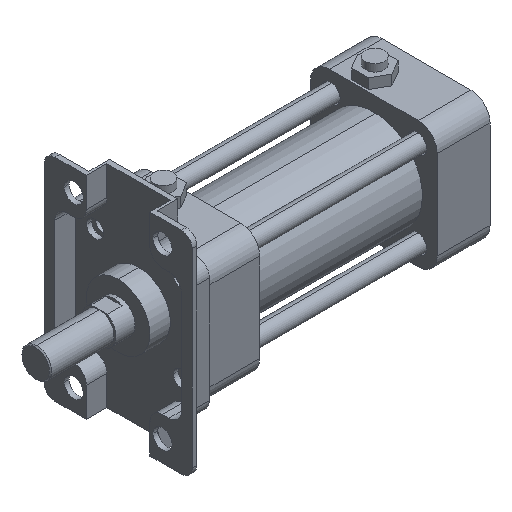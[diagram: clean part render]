
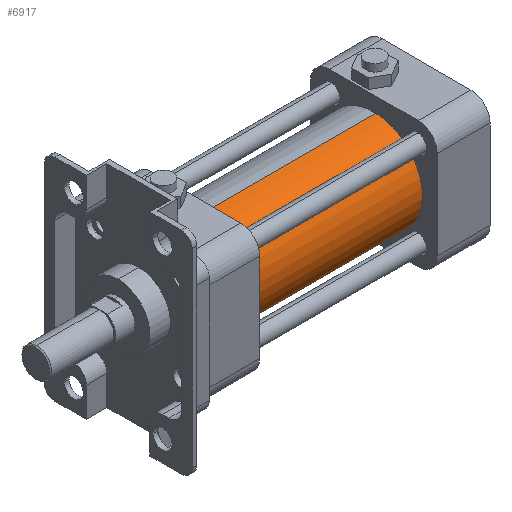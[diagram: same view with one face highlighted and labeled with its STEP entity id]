
A CAD part, isometric view. The second image highlights one B-rep face of the part: STEP entity #6917.
In plain terms, the highlighted cylindrical face has radius 23 mm (diameter 46 mm), a partial arc.
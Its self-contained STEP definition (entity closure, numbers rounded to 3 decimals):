
#235 = EDGE_CURVE ( 'NONE', #5671, #9579, #7488, .T. ) ;
#873 = CARTESIAN_POINT ( 'NONE',  ( -29.1, 0., 0. ) ) ;
#920 = ORIENTED_EDGE ( 'NONE', *, *, #1832, .T. ) ;
#1194 = VERTEX_POINT ( 'NONE', #5676 ) ;
#1336 = AXIS2_PLACEMENT_3D ( 'NONE', #1838, #5120, #8529 ) ;
#1426 = AXIS2_PLACEMENT_3D ( 'NONE', #7830, #6672, #3194 ) ;
#1832 = EDGE_CURVE ( 'NONE', #1194, #9579, #9403, .T. ) ;
#1838 = CARTESIAN_POINT ( 'NONE',  ( 42., 0., 0. ) ) ;
#2541 = ORIENTED_EDGE ( 'NONE', *, *, #235, .F. ) ;
#2621 = EDGE_LOOP ( 'NONE', ( #10273, #7188, #920, #2541 ) ) ;
#2696 = DIRECTION ( 'NONE',  ( -1., 0., 0. ) ) ;
#2908 = DIRECTION ( 'NONE',  ( -1., 0., 0. ) ) ;
#3194 = DIRECTION ( 'NONE',  ( 0., 0., 1. ) ) ;
#3237 = CARTESIAN_POINT ( 'NONE',  ( -42., 0., 23. ) ) ;
#4249 = EDGE_CURVE ( 'NONE', #8578, #1194, #5173, .T. ) ;
#4495 = VECTOR ( 'NONE', #6089, 1000. ) ;
#5120 = DIRECTION ( 'NONE',  ( -1., 0., 0. ) ) ;
#5173 = CIRCLE ( 'NONE', #1336, 23. ) ;
#5247 = CARTESIAN_POINT ( 'NONE',  ( -29.1, 0., -23. ) ) ;
#5281 = CARTESIAN_POINT ( 'NONE',  ( 42., 0., -23. ) ) ;
#5326 = DIRECTION ( 'NONE',  ( 0., 0., 1. ) ) ;
#5541 = VECTOR ( 'NONE', #2696, 1000. ) ;
#5671 = VERTEX_POINT ( 'NONE', #8656 ) ;
#5676 = CARTESIAN_POINT ( 'NONE',  ( 42., 0., 23. ) ) ;
#6089 = DIRECTION ( 'NONE',  ( -1., 0., 0. ) ) ;
#6177 = FACE_OUTER_BOUND ( 'NONE', #2621, .T. ) ;
#6551 = EDGE_CURVE ( 'NONE', #8578, #5671, #10069, .T. ) ;
#6612 = AXIS2_PLACEMENT_3D ( 'NONE', #873, #2908, #5326 ) ;
#6672 = DIRECTION ( 'NONE',  ( -1., 0., 0. ) ) ;
#6917 = ADVANCED_FACE ( 'NONE', ( #6177 ), #8934, .T. ) ;
#7188 = ORIENTED_EDGE ( 'NONE', *, *, #4249, .T. ) ;
#7488 = CIRCLE ( 'NONE', #1426, 23. ) ;
#7830 = CARTESIAN_POINT ( 'NONE',  ( -42., 0., 0. ) ) ;
#8351 = CARTESIAN_POINT ( 'NONE',  ( -29.1, 0., 23. ) ) ;
#8529 = DIRECTION ( 'NONE',  ( 0., 0., 1. ) ) ;
#8578 = VERTEX_POINT ( 'NONE', #5281 ) ;
#8656 = CARTESIAN_POINT ( 'NONE',  ( -42., 0., -23. ) ) ;
#8934 = CYLINDRICAL_SURFACE ( 'NONE', #6612, 23. ) ;
#9403 = LINE ( 'NONE', #8351, #5541 ) ;
#9579 = VERTEX_POINT ( 'NONE', #3237 ) ;
#10069 = LINE ( 'NONE', #5247, #4495 ) ;
#10273 = ORIENTED_EDGE ( 'NONE', *, *, #6551, .F. ) ;
